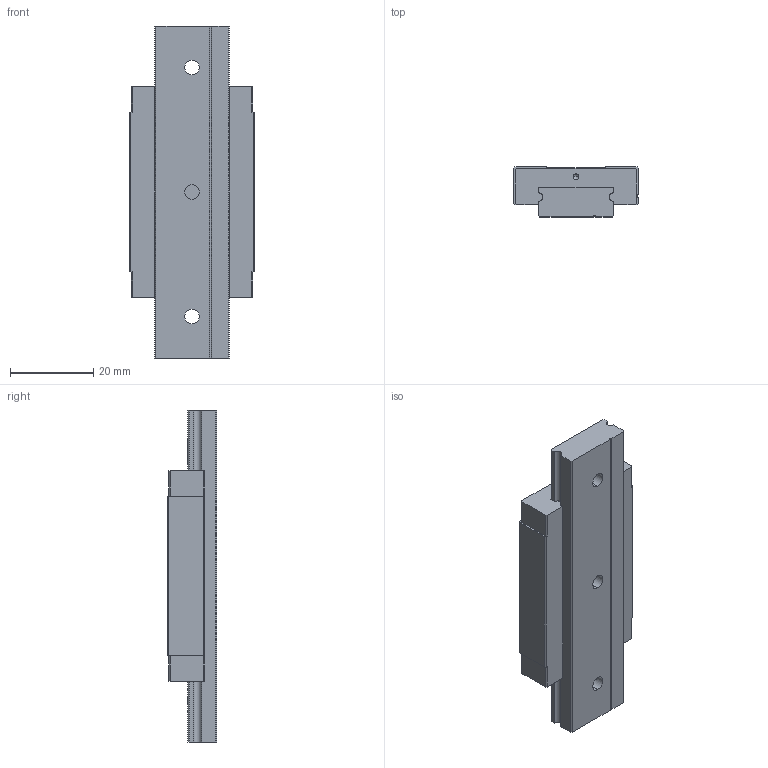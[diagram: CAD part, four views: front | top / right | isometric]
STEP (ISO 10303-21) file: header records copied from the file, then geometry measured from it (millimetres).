
FILE_DESCRIPTION (( 'STEP AP214' ), '1' );
FILE_NAME ('2.1065 Lineaarikelkka MGW9H.STEP', '2025-09-19T06:56:27', ( '' ), ( '' ), 'SwSTEP 2.0', 'SolidWorks 2025', '' );
FILE_SCHEMA (( 'AUTOMOTIVE_DESIGN' ));
Length unit declared in the file: millimetre
Products named in the file (1): 2.1065 Lineaarikelkka MGW9H
Bounding box: 30 x 12 x 80 mm (x, y, z)
Volume: 19203.5 mm3; surface area: 9657.3 mm2
Topology: 2 solids, 2 shells, 98 faces, 261 edges, 164 vertices
Faces by surface type: plane 53, cylinder 33, cone 12
Entity records: 4073 total; most frequent: DIRECTION 513, CARTESIAN_POINT 512, ORIENTED_EDGE 498, EDGE_CURVE 249, VECTOR 183, LINE 183, AXIS2_PLACEMENT_3D 165, VERTEX_POINT 164
